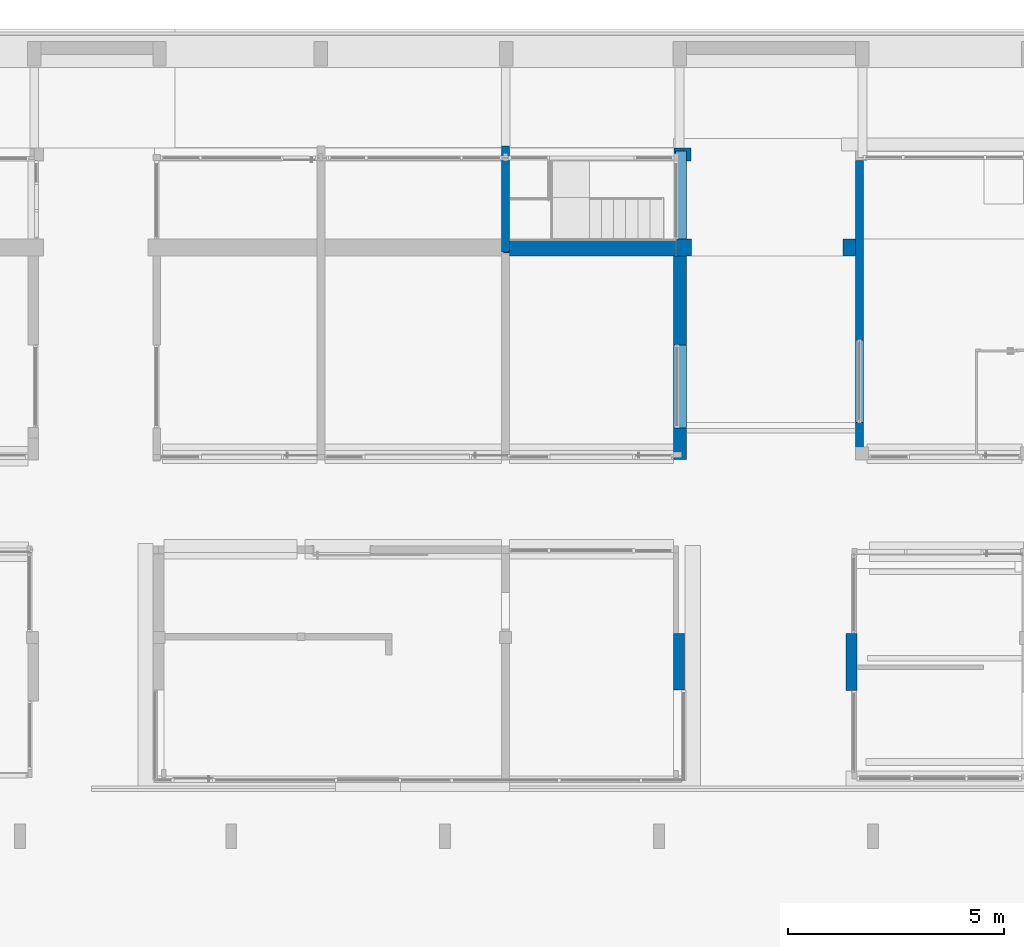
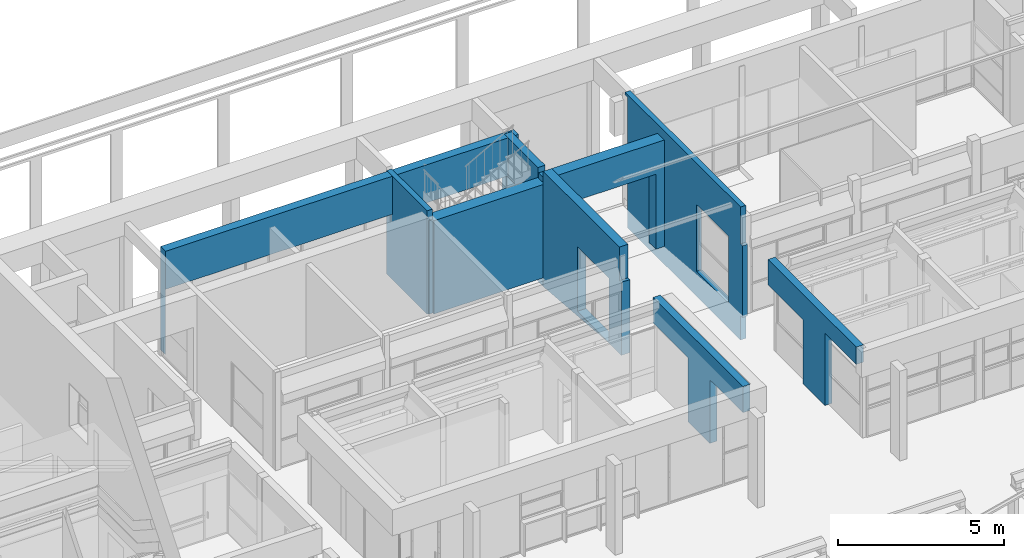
# One storey, part 87 of 117: 9 walls, 6 openings.
"""IFC4 building model written with IfcOpenShell, lengths in metres."""

from ifc_helpers import new_model, entity, si_unit, converted_unit, derived_unit, direction, frame, origin, place, context, subcontext, project, spatial, indexed_curve, outline, extrude, polygons, material, type_object, element, save


model = new_model("IFC4")

# Units and contexts
model_context = context("Model", 3, precision=1e-05, world=origin(), true_north=direction((6.123031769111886e-17, 1.0)))
body_context = subcontext(model_context, "Body", "Model", "MODEL_VIEW")
ifc_project = project(units=[si_unit("LENGTHUNIT", "METRE"), si_unit("AREAUNIT", "SQUARE_METRE"), si_unit("VOLUMEUNIT", "CUBIC_METRE"), converted_unit("PLANEANGLEUNIT", "DEGREE", entity("IfcRatioMeasure", 0.017453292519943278), si_unit("PLANEANGLEUNIT", "RADIAN"), dimensions=[0, 0, 0, 0, 0, 0, 0]), si_unit("MASSUNIT", "GRAM", prefix="KILO"), derived_unit("MASSDENSITYUNIT", [(si_unit("MASSUNIT", "GRAM", prefix="KILO"), 1), (si_unit("LENGTHUNIT", "METRE"), -3)]), derived_unit("MOMENTOFINERTIAUNIT", [(si_unit("LENGTHUNIT", "METRE"), 4)]), si_unit("TIMEUNIT", "SECOND"), si_unit("FREQUENCYUNIT", "HERTZ"), si_unit("THERMODYNAMICTEMPERATUREUNIT", "DEGREE_CELSIUS"), derived_unit("THERMALTRANSMITTANCEUNIT", [(si_unit("MASSUNIT", "GRAM", prefix="KILO"), 1), (si_unit("THERMODYNAMICTEMPERATUREUNIT", "KELVIN"), -1), (si_unit("TIMEUNIT", "SECOND"), -3)]), derived_unit("VOLUMETRICFLOWRATEUNIT", [(si_unit("LENGTHUNIT", "METRE"), 3), (si_unit("TIMEUNIT", "SECOND"), -1)]), derived_unit("MASSFLOWRATEUNIT", [(si_unit("MASSUNIT", "GRAM", prefix="KILO"), 1), (si_unit("TIMEUNIT", "SECOND"), -1)]), derived_unit("ROTATIONALFREQUENCYUNIT", [(si_unit("TIMEUNIT", "SECOND"), -1)]), si_unit("ELECTRICCURRENTUNIT", "AMPERE"), si_unit("ELECTRICVOLTAGEUNIT", "VOLT"), si_unit("POWERUNIT", "WATT"), si_unit("FORCEUNIT", "NEWTON", prefix="KILO"), si_unit("ILLUMINANCEUNIT", "LUX"), si_unit("LUMINOUSFLUXUNIT", "LUMEN"), si_unit("LUMINOUSINTENSITYUNIT", "CANDELA"), derived_unit("USERDEFINED", [(si_unit("MASSUNIT", "GRAM", prefix="KILO"), -1), (si_unit("LENGTHUNIT", "METRE"), -2), (si_unit("TIMEUNIT", "SECOND"), 3), (si_unit("LUMINOUSFLUXUNIT", "LUMEN"), 1)]), derived_unit("SOUNDPOWERUNIT", [(si_unit("MASSUNIT", "GRAM", prefix="KILO"), 1), (si_unit("LENGTHUNIT", "METRE"), 2), (si_unit("TIMEUNIT", "SECOND"), -3)]), derived_unit("SOUNDPRESSUREUNIT", [(si_unit("MASSUNIT", "GRAM", prefix="KILO"), 1), (si_unit("LENGTHUNIT", "METRE"), -1), (si_unit("TIMEUNIT", "SECOND"), -2)]), derived_unit("LINEARVELOCITYUNIT", [(si_unit("LENGTHUNIT", "METRE"), 1), (si_unit("TIMEUNIT", "SECOND"), -1)]), si_unit("PRESSUREUNIT", "PASCAL"), derived_unit("USERDEFINED", [(si_unit("LENGTHUNIT", "METRE"), -2), (si_unit("MASSUNIT", "GRAM", prefix="KILO"), 1), (si_unit("TIMEUNIT", "SECOND"), -2)]), derived_unit("LINEARFORCEUNIT", [(si_unit("MASSUNIT", "GRAM", prefix="KILO"), 1), (si_unit("LENGTHUNIT", "METRE"), 1), (si_unit("TIMEUNIT", "SECOND"), -2), (si_unit("LENGTHUNIT", "METRE"), -1)]), derived_unit("PLANARFORCEUNIT", [(si_unit("MASSUNIT", "GRAM", prefix="KILO"), 1), (si_unit("LENGTHUNIT", "METRE"), 1), (si_unit("TIMEUNIT", "SECOND"), -2), (si_unit("LENGTHUNIT", "METRE"), -2)])], contexts=[model_context])

# Site, building, storey
site_placement = place(None, origin())
site = spatial("IfcSite", under=ifc_project, at=site_placement, Name="Superficie", CompositionType="ELEMENT")
building_placement = place(site_placement, origin())
building = spatial("IfcBuilding", under=site, at=building_placement, CompositionType="ELEMENT")
storey_placement = place(building_placement, origin())
storey = spatial("IfcBuildingStorey", under=building, at=storey_placement, Name="Nivel 0", CompositionType="ELEMENT", Elevation=0.0)

# Walls
ifc_material = material(Name="Muro por defecto", Category="Varios")
wall_type_1 = type_object("IfcWallType", Name="Muro básico:Por defecto - 40 cm 2", PredefinedType="STANDARD")
wall_1_placement = place(storey_placement, frame((-3.3807009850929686, 10.570829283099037, -0.3215952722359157)))
element("IfcWall", 1, at=wall_1_placement, inside=storey, type_object=wall_type_1, material=ifc_material, Name="Muro básico:Por defecto - 40 cm 2", ObjectType="Muro básico:Por defecto - 40 cm 2", PredefinedType="NOTDEFINED", context=body_context, shape_type="Tessellation", body=[
    polygons([(4.142253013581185, -0.2, 0.0015952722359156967), (4.142253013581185, -0.2, 3.9215952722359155), (6.998144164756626e-16, -0.2, 3.9215952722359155), (6.998144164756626e-16, -0.2, 0.0015952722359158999), (0.06930833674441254, -0.2, 0.0015952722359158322), (0.13861667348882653, -0.2, 0.0015952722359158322), (0.2079250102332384, -0.20000000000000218, 0.0015952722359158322), (0.27723334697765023, -0.20000000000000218, 0.0015952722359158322), (0.34654168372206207, -0.20000000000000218, 0.0015952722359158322), (0.34654168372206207, -0.20000000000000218, 2.759995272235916), (3.846541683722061, -0.2, 2.759995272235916), (3.846541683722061, -0.2, 0.0015952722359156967), (3.920469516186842, -0.2, 0.0015952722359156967), (3.994397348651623, -0.2, 0.0015952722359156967), (4.068325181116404, -0.2, 0.0015952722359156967), (4.142253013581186, 0.2, 3.9215952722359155), (4.142253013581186, 0.2, 0.0015957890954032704), (4.068325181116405, 0.2, 0.0017504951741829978), (3.994397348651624, 0.2, 0.0019052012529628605), (3.9204695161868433, 0.2, 0.002059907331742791), (3.84654168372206, 0.2, 0.0022146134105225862), (3.84654168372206, 0.2, 2.759995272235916), (0.3465416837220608, 0.19999999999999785, 2.759995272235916), (0.3465416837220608, 0.19999999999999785, 0.00953893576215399), (0.2772333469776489, 0.19999999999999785, 0.00968397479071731), (0.2079250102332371, 0.19999999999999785, 0.009829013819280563), (0.13861667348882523, 0.2, 0.009974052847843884), (0.06930833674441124, 0.2, 0.010119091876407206), (-6.09702220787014e-16, 0.2, 0.010264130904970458), (-6.09702220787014e-16, 0.2, 3.9215952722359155), (-4.226284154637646e-16, 0.1428571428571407, 0.009025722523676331), (-2.355546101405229e-16, 0.08571428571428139, 0.007787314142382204), (-4.8480804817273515e-17, 0.028571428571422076, 0.006548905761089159), (1.3859300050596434e-16, -0.028571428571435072, 0.005310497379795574), (3.25666805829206e-16, -0.08571428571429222, 0.0040720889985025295), (5.127406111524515e-16, -0.14285714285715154, 0.0028336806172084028), (0.3465416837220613, -0.13333333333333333, 0.0029192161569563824), (0.3465416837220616, -0.06666666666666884, 0.004243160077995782), (0.34654168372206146, -2.1657342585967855e-15, 0.005567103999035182), (0.3465416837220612, 0.0666666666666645, 0.006891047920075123), (0.3465416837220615, 0.13333333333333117, 0.008214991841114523), (3.8465416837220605, 0.14285714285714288, 0.0021261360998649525), (3.8465416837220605, 0.08571428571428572, 0.002037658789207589), (3.8465416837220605, 0.02857142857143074, 0.0019491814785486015), (3.8465416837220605, -0.02857142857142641, 0.0018607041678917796), (3.846541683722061, -0.08571428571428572, 0.0017722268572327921), (3.8465416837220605, -0.14285714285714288, 0.0016837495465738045), (0.17238705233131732, -2.2950368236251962e-07, 0.00574932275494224), (4.142253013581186, 0.13333333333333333, 0.0015957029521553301), (4.142253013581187, 0.06666666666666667, 0.0015956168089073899), (4.142253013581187, 0.0, 0.0015955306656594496), (4.142253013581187, -0.06666666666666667, 0.0015954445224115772), (4.142253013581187, -0.13333333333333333, 0.0015953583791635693), (3.9943973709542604, -8.815837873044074e-11, 0.0017502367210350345)], [[[10, 11, 12, 13, 14, 15, 1, 2, 3, 4, 5, 6, 7, 8, 9]], [[22, 23, 24, 25, 26, 27, 28, 29, 30, 16, 17, 18, 19, 20, 21]], [[3, 2, 16, 30]], [[3, 30, 29, 31, 32, 33, 34, 35, 36, 4]], [[43, 44, 45, 46, 47, 12, 11, 22, 21, 42]], [[10, 23, 22, 11]], [[41, 24, 23, 10, 9, 37, 38, 39, 40]], [[16, 2, 1, 53, 52, 51, 50, 49, 17]], [[5, 4, 36, 35]], [[35, 48, 5]], [[34, 33, 32, 48, 35]], [[31, 29, 28, 32]], [[48, 40, 39, 38]], [[48, 32, 28]], [[28, 27, 26, 25, 48]], [[6, 5, 48, 8, 7]], [[48, 38, 8]], [[8, 38, 37, 9]], [[25, 40, 48]], [[41, 40, 25, 24]], [[54, 13, 46]], [[13, 12, 47, 46]], [[54, 46, 45, 44, 43]], [[21, 20, 43, 42]], [[43, 20, 54]], [[54, 15, 14, 13]], [[54, 52, 15]], [[15, 52, 53, 1]], [[54, 50, 51, 52]], [[19, 18, 54, 20]], [[18, 50, 54]], [[49, 50, 18, 17]]], closed=True),
])
wall_2_placement = place(storey_placement, frame((-7.253200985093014, 10.57082928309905, -0.3215952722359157)))
element("IfcWall", 2, at=wall_2_placement, inside=storey, type_object=wall_type_1, material=ifc_material, Name="Muro básico:Por defecto - 40 cm 2", ObjectType="Muro básico:Por defecto - 40 cm 2", PredefinedType="NOTDEFINED", context=body_context, shape_type="Tessellation", body=[
    polygons([(3.847500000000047, -0.2, 0.0015952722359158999), (3.847500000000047, -0.2, 3.7578707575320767), (1.782681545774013e-15, -0.2, 3.7578707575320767), (1.782681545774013e-15, -0.2, 0.3215952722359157), (3.8000000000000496, -0.2, 0.3215952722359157), (3.8000000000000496, -0.2, 0.0015952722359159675), (3.8475000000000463, 0.2, 3.7578707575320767), (3.8475000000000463, 0.2, 0.01031644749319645), (3.8000000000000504, 0.2, 0.01041584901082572), (3.8000000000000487, 0.2, 0.3215952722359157), (4.731649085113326e-16, 0.2, 0.3215952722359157), (4.731649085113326e-16, 0.2, 3.7578707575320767), (3.847500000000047, -0.13333333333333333, 0.0030488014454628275), (3.8475000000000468, -0.06666666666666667, 0.004502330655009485), (3.8475000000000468, 0.0, 0.005955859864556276), (3.8475000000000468, 0.06666666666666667, 0.007409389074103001), (3.8475000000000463, 0.13333333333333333, 0.008862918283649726), (1.4646993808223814e-15, -0.10287037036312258, 3.7578707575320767), (-0.13999999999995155, -0.10287037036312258, 3.7578707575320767), (-0.13999999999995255, -0.12787037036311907, 3.7578707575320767), (1.546544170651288e-15, -0.12787037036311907, 3.7578707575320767), (-0.13999999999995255, -0.12787037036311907, 0.3215952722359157), (-0.13999999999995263, -0.10287037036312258, 0.3215952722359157), (1.546544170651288e-15, -0.12787037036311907, 0.3215952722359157), (3.818322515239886e-16, -0.10287037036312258, 0.3215952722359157), (3.8000000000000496, 0.13333333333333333, 0.00894575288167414), (3.80000000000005, 0.06666666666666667, 0.007475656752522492), (3.80000000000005, 0.0, 0.006005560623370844), (3.80000000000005, -0.06666666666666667, 0.004535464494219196), (3.8000000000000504, -0.13333333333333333, 0.0030653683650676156), (3.8177497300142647, -0.2, 0.0015952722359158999), (3.8177497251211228, 0.2, 0.010378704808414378), (3.823750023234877, -0.033195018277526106, 0.005252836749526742)], [[[3, 4, 5, 6, 31, 1, 2]], [[20, 22, 24, 21]], [[10, 11, 12, 7, 8, 32, 9]], [[23, 19, 18, 25]], [[1, 13, 14, 15, 16, 17, 8, 7, 2]], [[2, 7, 12, 18, 19, 20, 21, 3]], [[22, 20, 19, 23]], [[29, 30, 6, 5, 10, 9, 26, 27, 28]], [[24, 4, 3, 21]], [[11, 25, 18, 12]], [[5, 4, 24, 22, 23, 25, 11, 10]], [[33, 16, 15, 14, 13]], [[6, 30, 31]], [[26, 9, 32, 27]], [[33, 31, 30]], [[33, 30, 29, 28, 27]], [[13, 31, 33]], [[32, 16, 33]], [[1, 31, 13]], [[32, 8, 17, 16]], [[27, 32, 33]]], closed=True),
])

# Wall, openings
wall_type_2 = type_object("IfcWallType", Name="Muro básico:Por defecto - 25 cm 2", PredefinedType="STANDARD")
wall_3_placement = place(storey_placement, frame((0.6667990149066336, 3.745829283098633, 0.0), z_axis=(0.0, 0.0, 1.0), x_axis=(0.0, -1.0, 0.0)))
wall_3 = element("IfcWall", 3, at=wall_3_placement, inside=storey, type_object=wall_type_2, material=ifc_material, Name="Muro básico:Por defecto - 25 cm 2", ObjectType="Muro básico:Por defecto - 25 cm 2", PredefinedType="NOTDEFINED", context=body_context, shape_type="Tessellation", body=[
    polygons([(5.319999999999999, -0.1249999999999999, 3.3), (-5.414335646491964e-16, -0.12499999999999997, 3.3), (-5.414335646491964e-16, -0.12499999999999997, 2.3599999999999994), (2.1064679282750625, -0.125, 2.3599999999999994), (2.1064679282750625, -0.125, 0.0), (3.426467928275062, -0.12499999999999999, 0.0), (3.426467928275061, -0.12499999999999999, 2.6599999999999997), (5.319999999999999, -0.1249999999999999, 2.6599999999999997), (0.0, 0.12500000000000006, 3.3), (5.32, 0.12500000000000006, 3.3), (5.32, 0.12500000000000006, 2.6599999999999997), (3.4264679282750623, 0.12500000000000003, 2.6599999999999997), (3.426467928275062, 0.12500000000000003, 0.0), (2.9400000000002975, 0.12500000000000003, 0.0), (2.8400000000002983, 0.12499999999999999, 0.0), (2.1064679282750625, 0.125, 0.0), (2.1064679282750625, 0.125, 2.3599999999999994), (0.0, 0.12500000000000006, 2.3599999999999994), (3.426467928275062, 0.11999999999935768, 0.0), (3.426467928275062, -6.422621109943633e-13, 0.0), (2.1064679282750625, -6.418725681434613e-13, 0.0), (2.1064679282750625, 0.11999999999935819, 0.0)], [[[1, 2, 3, 4, 5, 6, 7, 8]], [[9, 10, 11, 12, 13, 14, 15, 16, 17, 18]], [[13, 19, 20, 6, 5, 21, 22, 16, 15, 14]], [[10, 1, 8, 11]], [[2, 1, 10, 9]], [[2, 9, 18, 3]], [[7, 12, 11, 8]], [[12, 7, 6, 20, 19, 13]], [[17, 4, 3, 18]], [[4, 17, 16, 22, 21, 5]]], closed=True),
])
opening_1_placement = place(wall_3_placement, origin())
element("IfcOpeningElement", 4, at=opening_1_placement, cuts=wall_3, Name="Muro básico:Por defecto - 25 cm 2", PredefinedType="OPENING", context=body_context, shape_type="SweptSolid", body=[
    extrude(outline(indexed_curve([(-1.3929051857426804, -1.0399999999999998), (1.3929051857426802, -1.0399999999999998), (1.3929051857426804, 1.0400000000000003), (-1.3929051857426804, 1.0400000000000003), (-1.3929051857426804, -1.0399999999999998)], self_intersect=False)), frame((4.466467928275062, -0.12499999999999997, 1.267094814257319), z_axis=(0.0, 1.0, 0.0), x_axis=(0.0, 0.0, -1.0)), (0.0, 0.0, 1.0), 0.2500000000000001),
])
opening_2_placement = place(wall_3_placement, origin())
element("IfcOpeningElement", 5, at=opening_2_placement, cuts=wall_3, Name="Muro básico:Por defecto - 25 cm 2", PredefinedType="OPENING", context=body_context, shape_type="SweptSolid", body=[
    extrude(outline(indexed_curve([(-1.1965594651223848, -1.5310279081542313), (1.1965594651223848, -1.5310279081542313), (1.1965594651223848, 1.5310279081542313), (-1.1965594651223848, 1.5310279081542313), (-1.1965594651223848, -1.5310279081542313)], self_intersect=False)), frame((0.5754400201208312, -0.1250000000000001, 1.163440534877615), z_axis=(0.0, 1.0, 0.0), x_axis=(0.0, 0.0, -1.0)), (0.0, 0.0, 1.0), 0.2499999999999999),
])

wall_4_placement = place(storey_placement, frame((-3.328200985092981, 3.745829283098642, 0.0), z_axis=(0.0, 0.0, 1.0), x_axis=(0.0, -1.0, 0.0)))
wall_4 = element("IfcWall", 6, at=wall_4_placement, inside=storey, type_object=wall_type_2, material=ifc_material, Name="Muro básico:Por defecto - 25 cm 2", ObjectType="Muro básico:Por defecto - 25 cm 2", PredefinedType="NOTDEFINED", context=body_context, shape_type="Tessellation", body=[
    polygons([(5.41, -0.12500000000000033, 3.3), (0.0, -0.12500000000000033, 3.3), (-5.414335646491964e-16, -0.12500000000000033, 2.3599999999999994), (2.109999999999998, -0.1250000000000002, 2.3599999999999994), (2.1099999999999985, -0.1250000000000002, 2.35), (2.109999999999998, -0.1250000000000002, 0.0), (3.4131007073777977, -0.12500000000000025, 0.0), (3.4131007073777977, -0.12500000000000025, 2.34), (5.41, -0.12500000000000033, 2.34), (-5.414335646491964e-16, 0.1249999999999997, 3.3), (5.41, 0.1249999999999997, 3.3), (5.41, 0.1249999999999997, 2.34), (3.4131007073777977, 0.12499999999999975, 2.34), (3.4131007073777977, 0.12499999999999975, 0.0), (2.1099999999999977, 0.12499999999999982, 0.0), (2.1099999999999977, 0.12499999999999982, 2.3599999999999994), (-5.414335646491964e-16, 0.1249999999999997, 2.3599999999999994), (2.1099999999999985, -0.005000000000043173, 0.0)], [[[1, 2, 3, 4, 5, 6, 7, 8, 9]], [[10, 11, 12, 13, 14, 15, 16, 17]], [[6, 18, 15, 14, 7]], [[11, 1, 9, 12]], [[2, 1, 11, 10]], [[2, 10, 17, 3]], [[16, 4, 3, 17]], [[4, 16, 15, 18, 6, 5]], [[8, 13, 12, 9]], [[13, 8, 7, 14]]], closed=True),
])
opening_3_placement = place(wall_4_placement, origin())
element("IfcOpeningElement", 7, at=opening_3_placement, cuts=wall_4, Name="Muro básico:Por defecto - 25 cm 2", PredefinedType="OPENING", context=body_context, shape_type="SweptSolid", body=[
    extrude(outline(indexed_curve([(-1.1880135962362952, -1.4788903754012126), (1.1880135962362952, -1.4788903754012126), (1.1880135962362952, 1.4788903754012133), (-1.1880135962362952, 1.4788903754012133), (-1.1880135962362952, -1.4788903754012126)], self_intersect=False)), frame((0.6311096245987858, -0.12499999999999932, 1.1719864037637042), z_axis=(0.0, 1.0, 0.0), x_axis=(0.0, 0.0, -1.0)), (0.0, 0.0, 1.0), 0.24999999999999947),
])
opening_4_placement = place(wall_4_placement, origin())
element("IfcOpeningElement", 8, at=opening_4_placement, cuts=wall_4, Name="Muro básico:Por defecto - 25 cm 2", PredefinedType="OPENING", context=body_context, shape_type="SweptSolid", body=[
    extrude(outline(indexed_curve([(-1.17, -1.0484496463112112), (1.17, -1.0484496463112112), (1.17, 1.0484496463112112), (-1.17, 1.0484496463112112), (-1.17, -1.0484496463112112)], self_intersect=False)), frame((4.461550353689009, -0.12499999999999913, 1.17), z_axis=(0.0, 1.0, 0.0), x_axis=(0.0, 0.0, -1.0)), (0.0, 0.0, 1.0), 0.24999999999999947),
])

# Wall
wall_5_placement = place(storey_placement, frame((-3.2782009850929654, 10.770829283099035, 2.35), z_axis=(0.0, 0.0, 1.0), x_axis=(0.0, 1.0, 0.0)))
element("IfcWall", 9, at=wall_5_placement, inside=storey, type_object=wall_type_2, material=ifc_material, Name="Muro básico:Por defecto - 25 cm 2", ObjectType="Muro básico:Por defecto - 25 cm 2", PredefinedType="NOTDEFINED", context=body_context, shape_type="Tessellation", body=[
    polygons([(0.0, -0.12500000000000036, -2.707167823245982e-16), (2.0346296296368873, -0.12500000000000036, -2.707167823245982e-16), (2.0346296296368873, -0.12500000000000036, 1.4499999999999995), (0.0, -0.12500000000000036, 1.4499999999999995), (0.0, 0.12499999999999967, -2.707167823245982e-16), (0.0, 0.12499999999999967, 1.4499999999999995), (2.0346296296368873, 0.12499999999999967, 1.4499999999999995), (2.0346296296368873, 0.12499999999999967, -2.707167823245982e-16)], [[[1, 2, 3, 4]], [[5, 6, 7, 8]], [[2, 1, 5, 8]], [[3, 2, 8, 7]], [[1, 4, 6, 5]], [[4, 3, 7, 6]]], closed=True),
])

# Wall, openings
wall_type_3 = type_object("IfcWallType", Name="Muro básico:Por defecto - 30 cm", PredefinedType="STANDARD")
wall_6_placement = place(storey_placement, frame((-3.3032009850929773, 5.6658292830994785, -0.3200000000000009), z_axis=(0.0, 0.0, 1.0), x_axis=(0.0, 1.0, 0.0)))
wall_6 = element("IfcWall", 10, at=wall_6_placement, inside=storey, type_object=wall_type_3, material=ifc_material, Name="Muro básico:Por defecto - 30 cm", ObjectType="Muro básico:Por defecto - 30 cm", PredefinedType="NOTDEFINED", context=body_context, shape_type="Tessellation", body=[
    polygons([(0.7299999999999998, -0.1500000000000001, 2.72), (2.6472338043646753, -0.15000000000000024, 2.72), (2.6472338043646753, -0.15000000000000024, 0.34000000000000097), (0.7299999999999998, -0.1500000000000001, 0.34000000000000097), (4.704999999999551, -0.15000000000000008, 6.09112760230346e-16), (4.704999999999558, -0.15000000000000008, 4.24), (0.10999999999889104, -0.15000000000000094, 4.24), (0.10999999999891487, -0.15000000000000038, 3.0088238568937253), (1.0828671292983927e-15, -0.15000000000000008, 3.0088238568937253), (1.0828671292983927e-15, -0.15000000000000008, 0.3200000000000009), (0.8509105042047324, -0.15000000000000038, 0.32000000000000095), (2.647233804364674, 0.14999999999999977, 2.72), (0.7299999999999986, 0.1499999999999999, 2.72), (0.7299999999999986, 0.1499999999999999, 0.34000000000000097), (2.647233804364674, 0.14999999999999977, 0.34000000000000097), (4.704999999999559, 0.1500000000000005, 4.24), (4.704999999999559, 0.1500000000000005, 5.414335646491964e-16), (0.8509105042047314, 0.1499999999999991, 0.32000000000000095), (0.0, 0.1500000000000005, 0.3200000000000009), (0.0, 0.1500000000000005, 3.0088238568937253), (0.10999999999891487, 0.14999999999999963, 3.0088238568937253), (0.10999999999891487, 0.1499999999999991, 4.24)], [[[5, 6, 7, 8, 9, 10, 11], [1, 2, 3, 4]], [[16, 17, 18, 19, 20, 21, 22], [12, 13, 14, 15]], [[1, 13, 12, 2]], [[13, 1, 4, 14]], [[2, 12, 15, 3]], [[14, 4, 3, 15]], [[20, 9, 8, 21]], [[9, 20, 19, 10]], [[6, 5, 17, 16]], [[17, 5, 11, 18]], [[11, 10, 19, 18]], [[7, 22, 21, 8]], [[7, 6, 16, 22]]], closed=True),
])
opening_5_placement = place(wall_6_placement, origin())
element("IfcOpeningElement", 11, at=opening_5_placement, cuts=wall_6, Name="Muro básico:Por defecto - 30 cm", PredefinedType="OPENING", context=body_context, shape_type="SweptSolid", body=[
    extrude(outline(indexed_curve([(-1.1899999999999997, -0.9586169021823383), (1.1899999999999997, -0.9586169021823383), (1.1899999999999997, 0.9586169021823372), (-1.1899999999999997, 0.9586169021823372), (-1.1899999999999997, -0.9586169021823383)], self_intersect=False)), frame((1.688616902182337, -0.1500000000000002, 1.530000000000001), z_axis=(0.0, 1.0, 0.0), x_axis=(0.0, 0.0, -1.0)), (0.0, 0.0, 1.0), 0.30000000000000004),
])
opening_6_placement = place(wall_6_placement, origin())
element("IfcOpeningElement", 12, at=opening_6_placement, cuts=wall_6, Name="Muro básico:Por defecto - 30 cm", PredefinedType="OPENING", context=body_context, shape_type="SweptSolid", body=[
    extrude(outline(indexed_curve([(-1.414658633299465, -0.05499999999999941), (1.414658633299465, -0.05499999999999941), (1.414658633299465, 0.05499999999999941), (-1.414658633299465, 0.05499999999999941), (-1.414658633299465, -0.05499999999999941)], self_intersect=False)), frame((-0.05499999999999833, -0.1500000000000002, 1.59416522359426), z_axis=(0.0, 1.0, 0.0), x_axis=(0.0, 0.0, -1.0)), (0.0, 0.0, 1.0), 0.30000000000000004),
])

# Walls
wall_7_placement = place(storey_placement, frame((-15.323200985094, 12.720829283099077, -0.27780105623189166)))
element("IfcWall", 13, at=wall_7_placement, inside=storey, type_object=wall_type_3, material=ifc_material, Name="Muro básico:Por defecto - 30 cm", ObjectType="Muro básico:Por defecto - 30 cm", PredefinedType="NOTDEFINED", context=body_context, shape_type="Tessellation", body=[
    polygons([(12.280000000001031, -0.15000000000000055, 0.0015952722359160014), (12.280000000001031, -0.15000000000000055, 4.077801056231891), (2.8726004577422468e-16, -0.14999999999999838, 4.077801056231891), (2.8726004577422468e-16, -0.14999999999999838, 0.27780105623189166), (0.0008129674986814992, -0.14999999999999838, 0.27780105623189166), (0.0008129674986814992, -0.14999999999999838, 2.6778010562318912), (11.880000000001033, -0.14999999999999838, 2.6778010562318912), (11.880000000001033, -0.14999999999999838, 0.006199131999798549), (11.946666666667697, -0.14999999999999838, 0.005431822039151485), (12.013333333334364, -0.15000000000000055, 0.004664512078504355), (12.080000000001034, -0.15000000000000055, 0.003897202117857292), (12.146666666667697, -0.15000000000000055, 0.003129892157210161), (12.213333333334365, -0.15000000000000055, 0.002362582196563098), (12.280000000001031, 0.14999999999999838, 4.077801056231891), (12.280000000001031, 0.14999999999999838, 0.007567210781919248), (12.213333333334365, 0.14999999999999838, 0.008439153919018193), (12.146666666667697, 0.14999999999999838, 0.00931109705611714), (12.080000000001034, 0.14999999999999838, 0.010183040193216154), (12.013333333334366, 0.14999999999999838, 0.011054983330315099), (11.9466666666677, 0.15000000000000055, 0.011926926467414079), (11.880000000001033, 0.15000000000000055, 0.012798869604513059), (11.880000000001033, 0.15000000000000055, 2.6778010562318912), (0.0008129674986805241, 0.15000000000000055, 2.6778010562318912), (0.0008129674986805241, 0.15000000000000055, 0.27780105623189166), (-6.878949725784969e-16, 0.15000000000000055, 0.27780105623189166), (-6.878949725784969e-16, 0.15000000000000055, 3.397801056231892), (-6.878949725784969e-16, 0.15000000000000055, 4.077801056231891), (2.624949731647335e-16, -0.14238118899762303, 0.27780105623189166), (12.280000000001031, -0.07500000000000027, 0.003088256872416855), (12.280000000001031, -2.1657342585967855e-15, 0.0045812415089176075), (12.280000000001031, 0.07499999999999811, 0.006074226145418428), (11.880000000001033, 0.07500000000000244, 0.011148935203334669), (11.880000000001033, 2.1657342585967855e-15, 0.009499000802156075), (11.880000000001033, -0.07499999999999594, 0.00784906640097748), (12.080000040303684, 2.6201484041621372e-08, 0.007040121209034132)], [[[4, 5, 6, 7, 8, 9, 10, 11, 12, 13, 1, 2, 3]], [[22, 23, 24, 25, 26, 27, 14, 15, 16, 17, 18, 19, 20, 21]], [[5, 4, 28, 25, 24]], [[6, 23, 22, 7]], [[2, 1, 29, 30, 31, 15, 14]], [[24, 23, 6, 5]], [[3, 2, 14, 27]], [[32, 33, 34, 8, 7, 22, 21]], [[4, 3, 27, 26, 25, 28]], [[9, 8, 34, 10]], [[34, 35, 10]], [[35, 12, 11, 10]], [[20, 19, 32, 21]], [[19, 35, 32]], [[35, 34, 33, 32]], [[29, 1, 13, 12]], [[29, 35, 31, 30]], [[18, 17, 35, 19]], [[15, 31, 17, 16]], [[35, 17, 31]], [[35, 29, 12]]], closed=True),
])
wall_type_4 = type_object("IfcWallType", Name="Muro básico:Por defecto - 18 cm 2", PredefinedType="STANDARD")
wall_8_placement = place(storey_placement, frame((0.8515520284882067, 5.656739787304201, -0.9766082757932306), z_axis=(0.0, 0.0, 1.0), x_axis=(0.0, 1.0, 0.0)))
element("IfcWall", 14, at=wall_8_placement, inside=storey, type_object=wall_type_4, material=ifc_material, Name="Muro básico:Por defecto - 18 cm 2", ObjectType="Muro básico:Por defecto - 18 cm 2", PredefinedType="NOTDEFINED", context=body_context, shape_type="Tessellation", body=[
    polygons([(0.11908949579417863, -0.09000000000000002, 0.0), (6.927808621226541, -0.09000000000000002, 0.0), (6.927808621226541, -0.09000000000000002, 4.796608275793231), (7.077808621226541, -0.08999999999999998, 4.796608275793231), (7.077808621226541, -0.08999999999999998, 4.8966082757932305), (6.389089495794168, -0.08999999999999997, 4.8966082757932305), (5.074089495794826, -0.08999999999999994, 4.8966082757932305), (4.714089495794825, -0.09000000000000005, 4.8966082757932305), (0.11908949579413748, -0.09000000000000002, 4.89660827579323), (0.11908949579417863, -0.09000000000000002, 3.5392617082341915), (0.0, -0.09000000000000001, 3.5392617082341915), (0.0, -0.09000000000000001, 0.9003551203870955), (0.11908949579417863, -0.09000000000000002, 0.9003551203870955), (0.8600000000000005, -0.09000000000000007, 3.3766082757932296), (2.7772338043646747, -0.09000000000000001, 3.3766082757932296), (2.7772338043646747, -0.09000000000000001, 0.9166082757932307), (0.8600000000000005, -0.09000000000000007, 0.9166082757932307), (2.7772338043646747, 0.08999999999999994, 3.3766082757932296), (0.8600000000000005, 0.0899999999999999, 3.3766082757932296), (0.8600000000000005, 0.0899999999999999, 0.9166082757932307), (2.7772338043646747, 0.08999999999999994, 0.9166082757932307), (6.927808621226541, 0.08999999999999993, 4.796608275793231), (6.927808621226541, 0.08999999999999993, 0.9766082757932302), (6.927808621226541, 0.08999999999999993, 0.0), (0.11908949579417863, 0.08999999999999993, 0.0), (0.11908949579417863, 0.08999999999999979, 0.9003551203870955), (0.0, 0.08999999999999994, 0.9003551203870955), (0.0, 0.08999999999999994, 3.5392617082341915), (0.11908949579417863, 0.08999999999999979, 3.5392617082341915), (0.11908949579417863, 0.08999999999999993, 4.8966082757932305), (4.714089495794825, 0.08999999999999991, 4.8966082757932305), (5.074089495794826, 0.09000000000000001, 4.8966082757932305), (6.389089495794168, 0.08999999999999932, 4.8966082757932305), (7.077808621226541, 0.08999999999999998, 4.8966082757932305), (7.077808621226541, 0.08999999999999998, 4.796608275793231)], [[[1, 2, 3, 4, 5, 6, 7, 8, 9, 10, 11, 12, 13], [14, 15, 16, 17]], [[22, 23, 24, 25, 26, 27, 28, 29, 30, 31, 32, 33, 34, 35], [18, 19, 20, 21]], [[2, 1, 25, 24]], [[14, 19, 18, 15]], [[19, 14, 17, 20]], [[15, 18, 21, 16]], [[20, 17, 16, 21]], [[28, 11, 10, 29]], [[11, 28, 27, 12]], [[12, 27, 26, 13]], [[6, 5, 34, 33]], [[9, 30, 29, 10]], [[25, 1, 13, 26]], [[9, 8, 7, 6, 33, 32, 31, 30]], [[5, 4, 35, 34]], [[35, 4, 3, 22]], [[2, 24, 23, 22, 3]]], closed=True),
])
wall_9_placement = place(storey_placement, frame((-7.343200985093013, 10.467958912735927, 0.0), z_axis=(0.0, 0.0, 1.0), x_axis=(0.0, 1.0, 0.0)))
element("IfcWall", 15, at=wall_9_placement, inside=storey, type_object=wall_type_4, material=ifc_material, Name="Muro básico:Por defecto - 18 cm 2", ObjectType="Muro básico:Por defecto - 18 cm 2", PredefinedType="NOTDEFINED", context=body_context, shape_type="Tessellation", body=[
    polygons([(0.0, -0.08999999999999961, 0.0), (0.3028703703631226, -0.08999999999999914, 0.0), (2.450000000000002, -0.08999999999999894, 0.0), (2.450000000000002, -0.08999999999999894, 3.8), (0.26287037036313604, -0.08999999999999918, 3.8), (0.0, -0.08999999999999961, 3.8), (0.0, -0.08999999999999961, 3.4362754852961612), (0.0, 0.0900000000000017, 0.0), (0.0, 0.09000000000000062, 3.4362754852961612), (0.0, 0.09000000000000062, 3.6), (0.0, 0.0900000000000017, 3.8), (0.26287037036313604, 0.09000000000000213, 3.8), (2.450000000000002, 0.09000000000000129, 3.8), (2.450000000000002, 0.09000000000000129, 0.0), (0.3028703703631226, 0.09000000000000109, 0.0), (0.0, 0.04999999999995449, 0.0), (0.0, 0.07499999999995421, 0.0)], [[[1, 2, 3, 4, 5, 6, 7]], [[8, 9, 10, 11, 12, 13, 14, 15]], [[3, 2, 1, 16, 17, 8, 15, 14]], [[4, 3, 14, 13]], [[1, 7, 6, 11, 10, 9, 8, 17, 16]], [[6, 5, 12, 11]], [[5, 4, 13, 12]]], closed=True),
])

save(model, "model.ifc")
